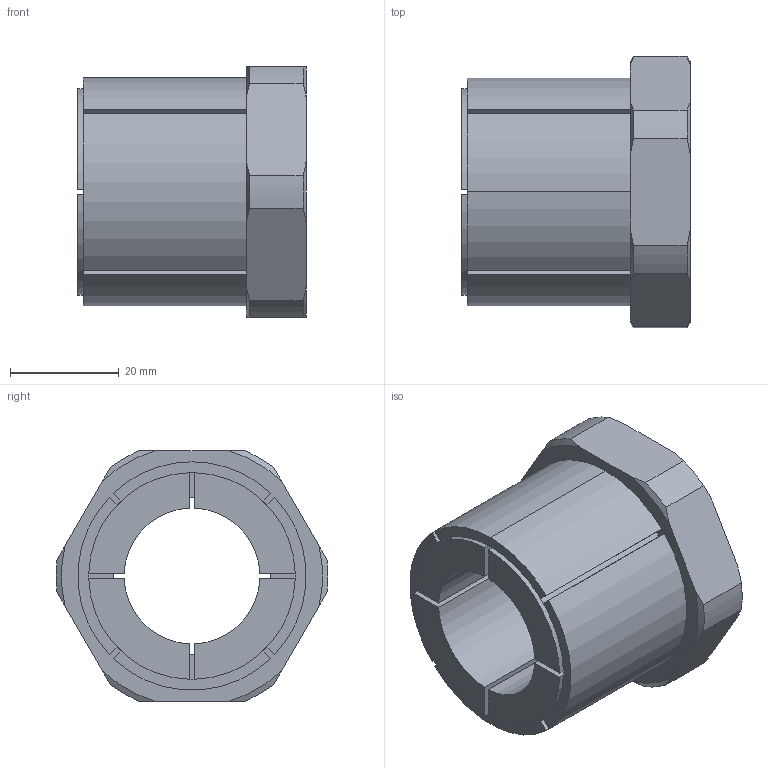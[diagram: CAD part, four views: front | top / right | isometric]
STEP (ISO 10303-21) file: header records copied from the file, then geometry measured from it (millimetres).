
FILE_DESCRIPTION (( 'STEP AP203' ), '1' );
FILE_NAME ('KBS 58 - 25 x 42.STEP', '2015-07-05T19:58:48', ( '' ), ( '' ), 'SwSTEP 2.0', 'SolidWorks 2010', '' );
FILE_SCHEMA (( 'CONFIG_CONTROL_DESIGN' ));
Length unit declared in the file: millimetre
Products named in the file (1): KBS 58 - 25 x 42
Bounding box: 42 x 49.96 x 46 mm (x, y, z)
Volume: 40435.4 mm3; surface area: 14259.4 mm2
Topology: 1 solids, 1 shells, 79 faces, 220 edges, 144 vertices
Faces by surface type: plane 37, cylinder 26, cone 16
Entity records: 2687 total; most frequent: CARTESIAN_POINT 564, ORIENTED_EDGE 440, DIRECTION 428, EDGE_CURVE 220, AXIS2_PLACEMENT_3D 160, VERTEX_POINT 144, LINE 108, VECTOR 108
